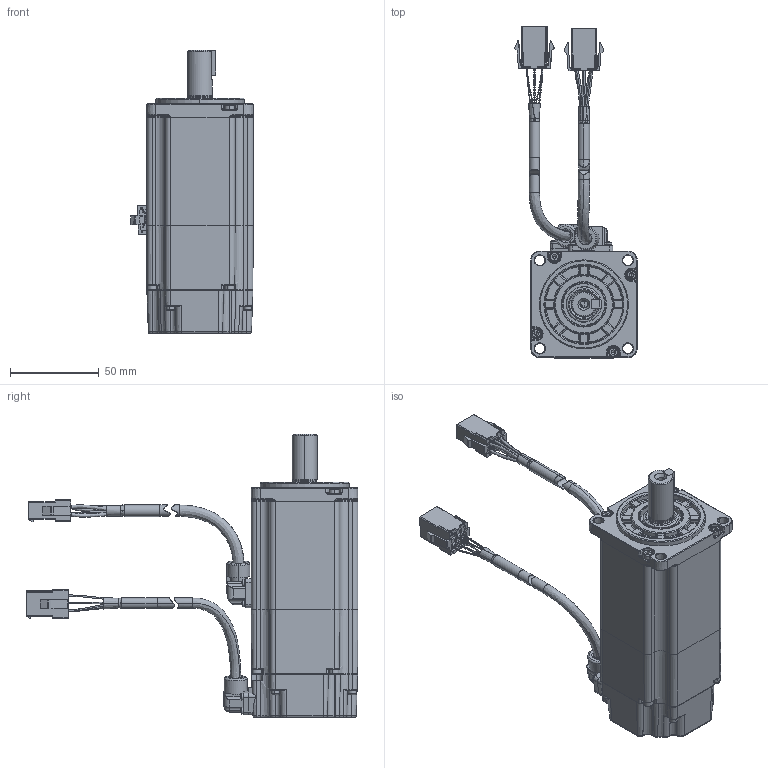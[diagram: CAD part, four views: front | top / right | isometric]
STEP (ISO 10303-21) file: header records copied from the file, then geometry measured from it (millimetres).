
FILE_DESCRIPTION (( 'STEP AP203' ), '1' );
FILE_NAME ('4030604-↓↓↓↓_60萇儂_DM1M-04A60[]8E_A1.STEP', '2020-05-19T08:47:16', ( '' ), ( '' ), 'SwSTEP 2.0', 'SolidWorks 2018', '' );
FILE_SCHEMA (( 'CONFIG_CONTROL_DESIGN' ));
Length unit declared in the file: millimetre
Products named in the file (1): 4030604-↓↓↓↓_60萇儂_DM1M-04A60[]8E_A1
Bounding box: 68.88 x 186.5 x 159.3 mm (x, y, z)
Surface area: 55104.5 mm2 (no closed solid volume)
Topology: 0 solids, 67 shells, 1468 faces, 4816 edges, 3266 vertices
Faces by surface type: plane 647, cylinder 341, bspline 162, cone 162, torus 130, sphere 26
Entity records: 58900 total; most frequent: CARTESIAN_POINT 18358, DIRECTION 8340, ORIENTED_EDGE 7842, EDGE_CURVE 4777, VERTEX_POINT 3266, AXIS2_PLACEMENT_3D 2832, VECTOR 2676, LINE 2676
